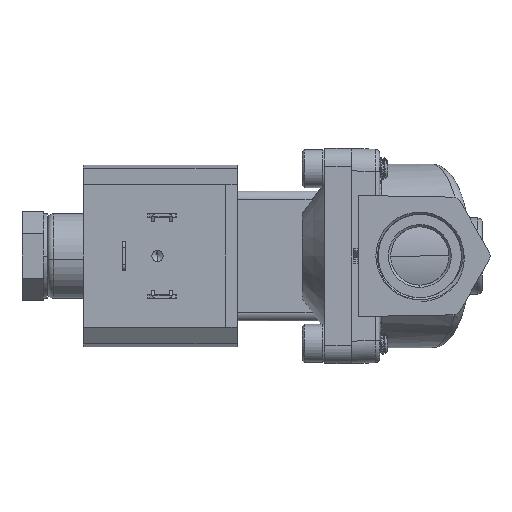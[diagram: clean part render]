
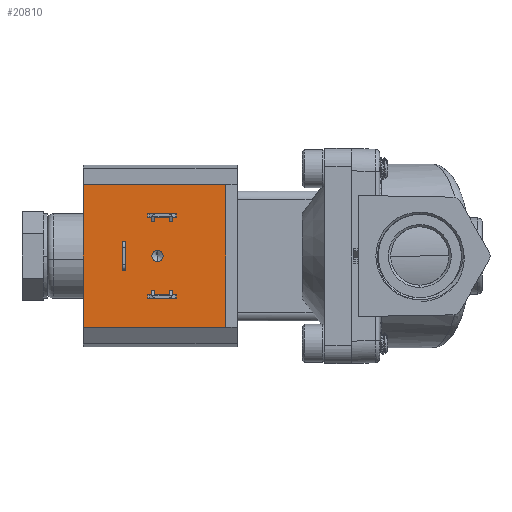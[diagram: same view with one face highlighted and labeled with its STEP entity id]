
A CAD part, left-side view. The second image highlights one B-rep face of the part: STEP entity #20810.
In plain terms, the highlighted planar face has unit normal (-1, 0, 0).
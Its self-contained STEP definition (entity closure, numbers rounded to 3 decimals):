
#473 = VERTEX_POINT ( 'NONE', #7535 ) ;
#526 = VERTEX_POINT ( 'NONE', #1990 ) ;
#600 = VERTEX_POINT ( 'NONE', #3031 ) ;
#724 = CARTESIAN_POINT ( 'NONE',  ( -8.443, 39.064, -9.423 ) ) ;
#833 = LINE ( 'NONE', #33484, #18865 ) ;
#1066 = ORIENTED_EDGE ( 'NONE', *, *, #5945, .T. ) ;
#1223 = CARTESIAN_POINT ( 'NONE',  ( -8.443, 50.316, -3.213 ) ) ;
#1271 = CARTESIAN_POINT ( 'NONE',  ( -8.443, 39.064, 9.423 ) ) ;
#1628 = LINE ( 'NONE', #15239, #7657 ) ;
#1678 = PLANE ( 'NONE',  #13421 ) ;
#1990 = CARTESIAN_POINT ( 'NONE',  ( -8.443, 51.129, 3.213 ) ) ;
#2792 = CARTESIAN_POINT ( 'NONE',  ( -8.443, 39.064, 9.423 ) ) ;
#3031 = CARTESIAN_POINT ( 'NONE',  ( -8.443, 45.414, 8.611 ) ) ;
#3453 = VERTEX_POINT ( 'NONE', #14432 ) ;
#3548 = CARTESIAN_POINT ( 'NONE',  ( -8.443, 45.414, 9.423 ) ) ;
#3895 = CIRCLE ( 'NONE', #23917, 1.264 ) ;
#3920 = DIRECTION ( 'NONE',  ( 0., 0., 1. ) ) ;
#4147 = ORIENTED_EDGE ( 'NONE', *, *, #11233, .T. ) ;
#4154 = ORIENTED_EDGE ( 'NONE', *, *, #32740, .T. ) ;
#4272 = CIRCLE ( 'NONE', #19109, 1.264 ) ;
#4926 = DIRECTION ( 'NONE',  ( 0., 0., 1. ) ) ;
#4970 = ORIENTED_EDGE ( 'NONE', *, *, #6275, .F. ) ;
#5264 = LINE ( 'NONE', #29673, #19893 ) ;
#5634 = ORIENTED_EDGE ( 'NONE', *, *, #8808, .F. ) ;
#5879 = CARTESIAN_POINT ( 'NONE',  ( -8.443, 43.265, 0. ) ) ;
#5907 = CARTESIAN_POINT ( 'NONE',  ( -8.443, 28.04, -15.875 ) ) ;
#5945 = EDGE_CURVE ( 'NONE', #16818, #6659, #14893, .T. ) ;
#6275 = EDGE_CURVE ( 'NONE', #14896, #25119, #3895, .T. ) ;
#6659 = VERTEX_POINT ( 'NONE', #13935 ) ;
#6824 = EDGE_LOOP ( 'NONE', ( #20311, #33900, #30001, #4154 ) ) ;
#6956 = CARTESIAN_POINT ( 'NONE',  ( -8.443, 59.79, -15.875 ) ) ;
#7090 = VECTOR ( 'NONE', #35173, 1000. ) ;
#7163 = DIRECTION ( 'NONE',  ( 0., -1., 0. ) ) ;
#7254 = LINE ( 'NONE', #10132, #26299 ) ;
#7414 = DIRECTION ( 'NONE',  ( 0., -1., 0. ) ) ;
#7535 = CARTESIAN_POINT ( 'NONE',  ( -8.443, 39.064, -8.611 ) ) ;
#7585 = CARTESIAN_POINT ( 'NONE',  ( -8.443, 45.414, 8.611 ) ) ;
#7657 = VECTOR ( 'NONE', #7163, 1000. ) ;
#7740 = VECTOR ( 'NONE', #23091, 1000. ) ;
#7782 = EDGE_CURVE ( 'NONE', #3453, #526, #35355, .T. ) ;
#8050 = EDGE_CURVE ( 'NONE', #33259, #31237, #32082, .T. ) ;
#8318 = LINE ( 'NONE', #29868, #16895 ) ;
#8784 = EDGE_CURVE ( 'NONE', #25119, #14896, #4272, .T. ) ;
#8808 = EDGE_CURVE ( 'NONE', #3453, #25432, #10461, .T. ) ;
#9158 = VECTOR ( 'NONE', #33389, 1000. ) ;
#9401 = VECTOR ( 'NONE', #7414, 1000. ) ;
#9480 = LINE ( 'NONE', #23466, #16849 ) ;
#9558 = FACE_BOUND ( 'NONE', #6824, .T. ) ;
#9824 = CARTESIAN_POINT ( 'NONE',  ( -8.443, 59.79, 15.875 ) ) ;
#9911 = DIRECTION ( 'NONE',  ( 0., 0., 1. ) ) ;
#10132 = CARTESIAN_POINT ( 'NONE',  ( -8.443, 39.064, -9.423 ) ) ;
#10215 = ORIENTED_EDGE ( 'NONE', *, *, #15243, .T. ) ;
#10299 = VERTEX_POINT ( 'NONE', #13162 ) ;
#10446 = LINE ( 'NONE', #12957, #32844 ) ;
#10461 = LINE ( 'NONE', #21052, #9401 ) ;
#11233 = EDGE_CURVE ( 'NONE', #526, #17077, #15079, .T. ) ;
#11291 = CARTESIAN_POINT ( 'NONE',  ( -8.443, 45.414, -8.611 ) ) ;
#11759 = DIRECTION ( 'NONE',  ( 0., 1., 0. ) ) ;
#12196 = DIRECTION ( 'NONE',  ( 0., 0., -1. ) ) ;
#12452 = DIRECTION ( 'NONE',  ( 0., -1., 0. ) ) ;
#12957 = CARTESIAN_POINT ( 'NONE',  ( -8.443, 45.414, -9.423 ) ) ;
#13162 = CARTESIAN_POINT ( 'NONE',  ( -8.443, 45.414, -9.423 ) ) ;
#13421 = AXIS2_PLACEMENT_3D ( 'NONE', #23017, #14578, #9911 ) ;
#13604 = VECTOR ( 'NONE', #12196, 1000. ) ;
#13935 = CARTESIAN_POINT ( 'NONE',  ( -8.443, 39.064, 8.611 ) ) ;
#14432 = CARTESIAN_POINT ( 'NONE',  ( -8.443, 51.129, -3.213 ) ) ;
#14578 = DIRECTION ( 'NONE',  ( -1., 0., 0. ) ) ;
#14704 = EDGE_CURVE ( 'NONE', #25432, #17077, #19188, .T. ) ;
#14757 = ORIENTED_EDGE ( 'NONE', *, *, #7782, .T. ) ;
#14893 = LINE ( 'NONE', #1271, #13604 ) ;
#14896 = VERTEX_POINT ( 'NONE', #23838 ) ;
#15079 = LINE ( 'NONE', #28547, #32970 ) ;
#15110 = FACE_OUTER_BOUND ( 'NONE', #29290, .T. ) ;
#15138 = LINE ( 'NONE', #7585, #25573 ) ;
#15239 = CARTESIAN_POINT ( 'NONE',  ( -8.443, 45.414, -9.423 ) ) ;
#15243 = EDGE_CURVE ( 'NONE', #27879, #16818, #32420, .T. ) ;
#15395 = EDGE_CURVE ( 'NONE', #33259, #27941, #833, .T. ) ;
#15486 = DIRECTION ( 'NONE',  ( -1., 0., 0. ) ) ;
#16818 = VERTEX_POINT ( 'NONE', #2792 ) ;
#16849 = VECTOR ( 'NONE', #25976, 1000. ) ;
#16895 = VECTOR ( 'NONE', #27160, 1000. ) ;
#17077 = VERTEX_POINT ( 'NONE', #23575 ) ;
#17350 = VERTEX_POINT ( 'NONE', #9824 ) ;
#17524 = ORIENTED_EDGE ( 'NONE', *, *, #30492, .F. ) ;
#17670 = EDGE_CURVE ( 'NONE', #33314, #473, #7254, .T. ) ;
#17794 = FACE_BOUND ( 'NONE', #31558, .T. ) ;
#18409 = CARTESIAN_POINT ( 'NONE',  ( -8.443, 28.04, -15.875 ) ) ;
#18417 = EDGE_CURVE ( 'NONE', #10299, #33290, #10446, .T. ) ;
#18460 = ORIENTED_EDGE ( 'NONE', *, *, #23040, .T. ) ;
#18511 = ORIENTED_EDGE ( 'NONE', *, *, #15395, .F. ) ;
#18751 = CARTESIAN_POINT ( 'NONE',  ( -8.443, 45.414, 9.423 ) ) ;
#18865 = VECTOR ( 'NONE', #11759, 1000. ) ;
#18884 = DIRECTION ( 'NONE',  ( 0., 0., 1. ) ) ;
#19109 = AXIS2_PLACEMENT_3D ( 'NONE', #29665, #15486, #32545 ) ;
#19154 = CARTESIAN_POINT ( 'NONE',  ( -8.443, 28.04, 15.875 ) ) ;
#19188 = LINE ( 'NONE', #25467, #9158 ) ;
#19675 = ORIENTED_EDGE ( 'NONE', *, *, #25182, .F. ) ;
#19756 = EDGE_CURVE ( 'NONE', #10299, #33314, #1628, .T. ) ;
#19893 = VECTOR ( 'NONE', #18884, 1000. ) ;
#20311 = ORIENTED_EDGE ( 'NONE', *, *, #17670, .F. ) ;
#20810 = ADVANCED_FACE ( 'Defeatured_0_337', ( #17794, #25706, #15110, #33985, #9558 ), #1678, .T. ) ;
#21052 = CARTESIAN_POINT ( 'NONE',  ( -8.443, 51.129, -3.213 ) ) ;
#21326 = CARTESIAN_POINT ( 'NONE',  ( -8.443, 51.129, -3.213 ) ) ;
#21545 = ORIENTED_EDGE ( 'NONE', *, *, #8784, .F. ) ;
#21772 = ORIENTED_EDGE ( 'NONE', *, *, #25454, .F. ) ;
#22748 = DIRECTION ( 'NONE',  ( -1., 0., 0. ) ) ;
#22980 = ORIENTED_EDGE ( 'NONE', *, *, #8050, .T. ) ;
#23017 = CARTESIAN_POINT ( 'NONE',  ( -8.443, 28.04, -15.875 ) ) ;
#23040 = EDGE_CURVE ( 'NONE', #31237, #17350, #8318, .T. ) ;
#23091 = DIRECTION ( 'NONE',  ( 0., 0., -1. ) ) ;
#23361 = ORIENTED_EDGE ( 'NONE', *, *, #14704, .F. ) ;
#23466 = CARTESIAN_POINT ( 'NONE',  ( -8.443, 45.414, -8.611 ) ) ;
#23575 = CARTESIAN_POINT ( 'NONE',  ( -8.443, 50.316, 3.213 ) ) ;
#23679 = VECTOR ( 'NONE', #29368, 1000. ) ;
#23838 = CARTESIAN_POINT ( 'NONE',  ( -8.443, 43.265, 1.264 ) ) ;
#23917 = AXIS2_PLACEMENT_3D ( 'NONE', #5879, #22748, #3920 ) ;
#24316 = DIRECTION ( 'NONE',  ( 0., -1., 0. ) ) ;
#25119 = VERTEX_POINT ( 'NONE', #33469 ) ;
#25182 = EDGE_CURVE ( 'NONE', #600, #6659, #15138, .T. ) ;
#25286 = EDGE_LOOP ( 'NONE', ( #23361, #5634, #14757, #4147 ) ) ;
#25432 = VERTEX_POINT ( 'NONE', #1223 ) ;
#25454 = EDGE_CURVE ( 'NONE', #27879, #600, #28665, .T. ) ;
#25467 = CARTESIAN_POINT ( 'NONE',  ( -8.443, 50.316, -3.213 ) ) ;
#25573 = VECTOR ( 'NONE', #12452, 1000. ) ;
#25706 = FACE_BOUND ( 'NONE', #31060, .T. ) ;
#25976 = DIRECTION ( 'NONE',  ( 0., -1., 0. ) ) ;
#26299 = VECTOR ( 'NONE', #4926, 1000. ) ;
#27160 = DIRECTION ( 'NONE',  ( 0., 1., 0. ) ) ;
#27879 = VERTEX_POINT ( 'NONE', #33898 ) ;
#27941 = VERTEX_POINT ( 'NONE', #6956 ) ;
#28547 = CARTESIAN_POINT ( 'NONE',  ( -8.443, 51.129, 3.213 ) ) ;
#28665 = LINE ( 'NONE', #3548, #7740 ) ;
#29290 = EDGE_LOOP ( 'NONE', ( #17524, #18511, #22980, #18460 ) ) ;
#29368 = DIRECTION ( 'NONE',  ( 0., 0., 1. ) ) ;
#29665 = CARTESIAN_POINT ( 'NONE',  ( -8.443, 43.265, 0. ) ) ;
#29673 = CARTESIAN_POINT ( 'NONE',  ( -8.443, 59.79, -15.875 ) ) ;
#29868 = CARTESIAN_POINT ( 'NONE',  ( -8.443, 28.04, 15.875 ) ) ;
#30001 = ORIENTED_EDGE ( 'NONE', *, *, #18417, .T. ) ;
#30337 = VECTOR ( 'NONE', #24316, 1000. ) ;
#30492 = EDGE_CURVE ( 'NONE', #27941, #17350, #5264, .T. ) ;
#31060 = EDGE_LOOP ( 'NONE', ( #1066, #19675, #21772, #10215 ) ) ;
#31237 = VERTEX_POINT ( 'NONE', #19154 ) ;
#31558 = EDGE_LOOP ( 'NONE', ( #4970, #21545 ) ) ;
#32082 = LINE ( 'NONE', #18409, #23679 ) ;
#32351 = DIRECTION ( 'NONE',  ( 0., 0., 1. ) ) ;
#32420 = LINE ( 'NONE', #18751, #30337 ) ;
#32545 = DIRECTION ( 'NONE',  ( 0., 0., 1. ) ) ;
#32740 = EDGE_CURVE ( 'NONE', #33290, #473, #9480, .T. ) ;
#32844 = VECTOR ( 'NONE', #32351, 1000. ) ;
#32970 = VECTOR ( 'NONE', #34654, 1000. ) ;
#33259 = VERTEX_POINT ( 'NONE', #5907 ) ;
#33290 = VERTEX_POINT ( 'NONE', #11291 ) ;
#33314 = VERTEX_POINT ( 'NONE', #724 ) ;
#33389 = DIRECTION ( 'NONE',  ( 0., 0., 1. ) ) ;
#33469 = CARTESIAN_POINT ( 'NONE',  ( -8.443, 43.265, -1.264 ) ) ;
#33484 = CARTESIAN_POINT ( 'NONE',  ( -8.443, 28.04, -15.875 ) ) ;
#33898 = CARTESIAN_POINT ( 'NONE',  ( -8.443, 45.414, 9.423 ) ) ;
#33900 = ORIENTED_EDGE ( 'NONE', *, *, #19756, .F. ) ;
#33985 = FACE_BOUND ( 'NONE', #25286, .T. ) ;
#34654 = DIRECTION ( 'NONE',  ( 0., -1., 0. ) ) ;
#35173 = DIRECTION ( 'NONE',  ( 0., 0., 1. ) ) ;
#35355 = LINE ( 'NONE', #21326, #7090 ) ;
